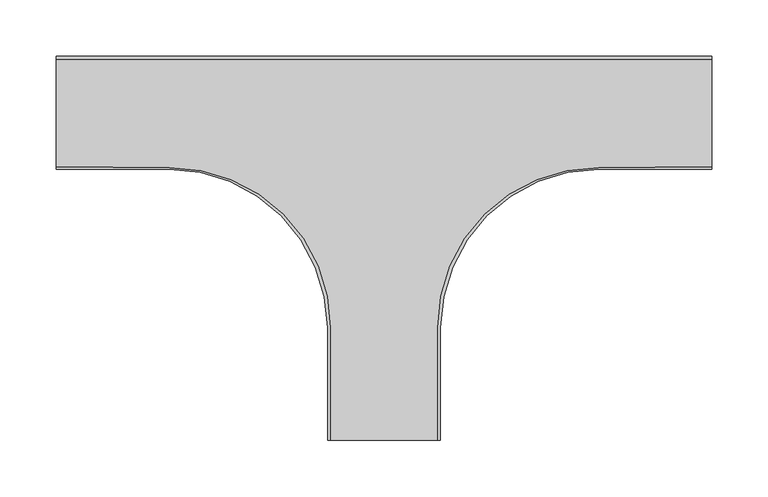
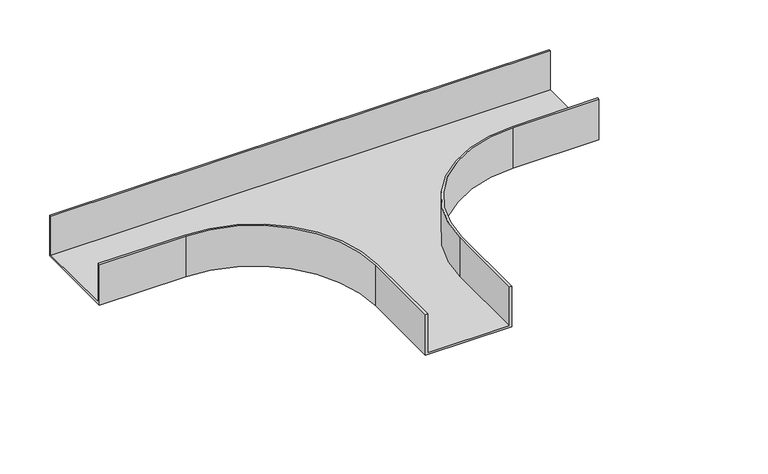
"""IFC4 building model written with IfcOpenShell, lengths in millimetres: cable carrier fitting geometry, BAKS_Tee_TKZ : TKZCH50."""

from ifc_helpers import new_model, si_unit, frame, origin, place, context, project, spatial, polyline, circle_curve, source, transform, mapped, element, save
from ifc_brep_helpers import plane_surface, cylinder_surface, revolved_surface, advanced_brep


def cable_carrier_fitting_a196cc36(model_context):
    return source(origin(), model_context, "Body", "AdvancedBrep", [
        advanced_brep(
        [(-50.0, -190.0, 25.0), (-50.0, -290.0, 25.0), (-47.46, -290.0, 25.0), (-47.46, -190.0, 25.0), (-190.0, -48.503822, 25.0), (-290.0, -47.46, 25.0), (-290.0, -50.0, 25.0), (-190.0, -50.0, 25.0), (50.0, -190.0, 25.0), (190.0, -50.0, 25.0), (290.0, -50.0, 25.0), (290.0, -47.46, 25.0), (190.0, -48.503822, 25.0), (47.46, -190.0, 25.0), (47.46, -290.0, 25.0), (50.0, -290.0, 25.0), (290.0, 50.0, 25.0), (-290.0, 50.0, 25.0), (-290.0, 47.46, 25.0), (290.0, 47.46, 25.0), (-50.0, -190.0, -25.0), (-190.0, -50.0, -25.0), (-290.0, -50.0, -25.0), (-290.0, 50.0, -25.0), (290.0, 50.0, -25.0), (290.0, -50.0, -25.0), (190.0, -50.0, -25.0), (50.0, -190.0, -25.0), (50.0, -290.0, -25.0), (-50.0, -290.0, -25.0), (-50.0, -190.0, -22.46), (47.46, -290.0, -22.46), (-47.46, -290.0, -22.46), (-47.46, -190.0, -22.46), (-190.0, -48.503822, -22.46), (-290.0, -47.46, -22.46), (-290.0, 47.46, -22.46), (-190.0, -50.0, -22.46), (50.0, -190.0, -22.46), (190.0, -50.0, -22.46), (290.0, 47.46, -22.46), (290.0, -47.46, -22.46), (190.0, -48.503822, -22.46), (47.46, -190.0, -22.46)],
        [
            (0, 1),
            (1, 2),
            (2, 3),
            (3, 4, circle_curve(frame((-188.96, -190.0, 25.0), z_axis=(0.0, 0.0, 1.0), x_axis=(1.0, 0.0, 0.0)), 141.5)),
            (4, 5),
            (5, 6),
            (6, 7),
            (7, 0, circle_curve(frame((-190.0, -190.0, 25.0), z_axis=(0.0, 0.0, -1.0), x_axis=(1.0, 0.0, 0.0)), 140.0)),
            (8, 9, circle_curve(frame((190.0, -190.0, 25.0), z_axis=(0.0, 0.0, -1.0), x_axis=(1.0, 0.0, 0.0)), 140.0)),
            (9, 10),
            (10, 11),
            (11, 12),
            (12, 13, circle_curve(frame((188.96, -190.0, 25.0), z_axis=(0.0, 0.0, 1.0), x_axis=(1.0, 0.0, 0.0)), 141.5)),
            (13, 14),
            (14, 15),
            (15, 8),
            (16, 17),
            (17, 18),
            (18, 19),
            (19, 16),
            (20, 21, circle_curve(frame((-190.0, -190.0, -25.0), z_axis=(0.0, 0.0, 1.0), x_axis=(1.0, 0.0, 0.0)), 140.0)),
            (21, 22),
            (22, 23),
            (23, 24),
            (24, 25),
            (25, 26),
            (26, 27, circle_curve(frame((190.0, -190.0, -25.0), z_axis=(0.0, 0.0, 1.0), x_axis=(1.0, 0.0, 0.0)), 140.0)),
            (27, 28),
            (28, 29),
            (29, 20),
            (29, 1),
            (0, 30),
            (30, 20),
            (28, 15),
            (14, 31),
            (31, 32),
            (32, 2),
            (32, 33),
            (33, 3),
            (33, 34, circle_curve(frame((-188.96, -190.0, -22.46), z_axis=(0.0, 0.0, 1.0), x_axis=(1.0, 0.0, 0.0)), 141.5)),
            (34, 4),
            (34, 35),
            (35, 5),
            (35, 36),
            (36, 18),
            (17, 23),
            (22, 6),
            (21, 37),
            (37, 7),
            (8, 38),
            (38, 27),
            (26, 39),
            (39, 9),
            (25, 10),
            (24, 16),
            (19, 40),
            (40, 41),
            (41, 11),
            (41, 42),
            (42, 12),
            (42, 43, circle_curve(frame((188.96, -190.0, -22.46), z_axis=(0.0, 0.0, 1.0), x_axis=(1.0, 0.0, 0.0)), 141.5)),
            (43, 13),
            (43, 31),
            (36, 40),
        ],
        [
            plane_surface(frame((-50.0, -190.0, 25.0), z_axis=(0.0, 0.0, 1.0), x_axis=(0.0, -1.0, 0.0))),
            plane_surface(frame((-50.0, -190.0, -25.0), z_axis=(0.0, 0.0, -1.0), x_axis=(0.0, 1.0, 0.0))),
            plane_surface(frame((-50.0, -190.0, 25.0), z_axis=(-1.0, 0.0, 0.0), x_axis=(0.0, 0.0, -1.0))),
            plane_surface(frame((-50.0, -290.0, 25.0), z_axis=(0.0, -1.0, 0.0), x_axis=(0.0, 0.0, -1.0))),
            plane_surface(frame((-47.46, -290.0, 25.0), z_axis=(1.0, 0.0, 0.0), x_axis=(0.0, 0.0, -1.0))),
            cylinder_surface(frame((-188.96, -190.0, -25.0), z_axis=(0.0, 0.0, 1.0), x_axis=(1.0, 0.0, 0.0)), 141.5),
            plane_surface(frame((-190.0, -48.503822, 25.0), z_axis=(0.010437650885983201, 0.9999455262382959, 0.0), x_axis=(0.0, 0.0, -1.0))),
            plane_surface(frame((-290.0, -47.46, 25.0), z_axis=(-1.0, 0.0, 0.0), x_axis=(0.0, 0.0, -1.0))),
            plane_surface(frame((-290.0, -50.0, 25.0), z_axis=(0.0, -1.0, 0.0), x_axis=(0.0, 0.0, -1.0))),
            revolved_surface(polyline([(-50.0, -190.0, -25.0), (-50.0, -190.0, 25.0)]), (-190.0, -190.0, -25.0), (0.0, 0.0, -1.0)),
            revolved_surface(polyline([(330.0, -190.0, -25.0), (330.0, -190.0, 25.0)]), (190.0, -190.0, 0.0), (0.0, 0.0, -1.0)),
            plane_surface(frame((190.0, -50.0, 25.0), z_axis=(0.0, -1.0, 0.0), x_axis=(0.0, 0.0, -1.0))),
            plane_surface(frame((290.0, -50.0, 25.0), z_axis=(1.0, 0.0, 0.0), x_axis=(0.0, 0.0, -1.0))),
            plane_surface(frame((290.0, -47.46, 25.0), z_axis=(-0.010437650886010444, 0.9999455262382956, 0.0), x_axis=(0.0, 0.0, -1.0))),
            cylinder_surface(frame((188.96, -190.0, 0.0), z_axis=(0.0, 0.0, 1.0), x_axis=(1.0, 0.0, 0.0)), 141.5),
            plane_surface(frame((47.46, -190.0, 25.0), z_axis=(-1.0, 0.0, 0.0), x_axis=(0.0, 0.0, -1.0))),
            plane_surface(frame((50.0, -290.0, 25.0), z_axis=(1.0, 0.0, 0.0), x_axis=(0.0, 0.0, -1.0))),
            plane_surface(frame((290.0, 50.0, 25.0), z_axis=(0.0, 1.0, 0.0), x_axis=(0.0, 0.0, -1.0))),
            plane_surface(frame((-290.0, 47.46, 25.0), z_axis=(0.0, -1.0, 0.0), x_axis=(0.0, 0.0, -1.0))),
            plane_surface(frame((-50.0, -190.0, -22.46), z_axis=(0.0, 0.0, 1.0), x_axis=(0.0, -1.0, 0.0))),
        ],
        [
            (0, [[1, 2, 3, 4, 5, 6, 7, 8]]),
            (0, [[9, 10, 11, 12, 13, 14, 15, 16]]),
            (0, [[17, 18, 19, 20]]),
            (1, [[21, 22, 23, 24, 25, 26, 27, 28, 29, 30]]),
            (2, [[31, -1, 32, 33, -30]]),
            (3, [[-2, -31, -29, 34, -15, 35, 36, 37]]),
            (4, [[-3, -37, 38, 39]]),
            (5, [[-4, -39, 40, 41]]),
            (6, [[-5, -41, 42, 43]]),
            (7, [[-6, -43, 44, 45, -18, 46, -23, 47]]),
            (8, [[-7, -47, -22, 48, 49]]),
            (9, [[-8, -49, -48, -21, -33, -32]]),
            (10, [[-9, 50, 51, -27, 52, 53]]),
            (11, [[54, -10, -53, -52, -26]]),
            (12, [[-11, -54, -25, 55, -20, 56, 57, 58]]),
            (13, [[-12, -58, 59, 60]]),
            (14, [[-13, -60, 61, 62]]),
            (15, [[-14, -62, 63, -35]]),
            (16, [[-16, -34, -28, -51, -50]]),
            (17, [[-46, -17, -55, -24]]),
            (18, [[-19, -45, 64, -56]]),
            (19, [[-36, -63, -61, -59, -57, -64, -44, -42, -40, -38]]),
        ],
    ),
    ])


if __name__ == "__main__":
    model = new_model("IFC4")
    model_context = context("Model", 3, world=origin())
    ifc_project = project(units=[si_unit("LENGTHUNIT", "METRE", prefix="MILLI")], contexts=[model_context])
    site = spatial("IfcSite", under=ifc_project)
    building = spatial("IfcBuilding", under=site)
    placement = place(None, origin())
    cable_carrier_fitting_shape = cable_carrier_fitting_a196cc36(model_context)
    element("IfcCableCarrierFitting", 1, ObjectType="BAKS_Tee_TKZ : TKZCH50", at=placement, inside=building, context=model_context, shape_type="MappedRepresentation", body=[
        mapped(cable_carrier_fitting_shape, transform((0.0, 0.0, 0.0), x_axis=(1.0, 0.0, 0.0), y_axis=(0.0, 1.0, 0.0), z_axis=(0.0, 0.0, 1.0))),
    ])
    save(model, "model.ifc")
